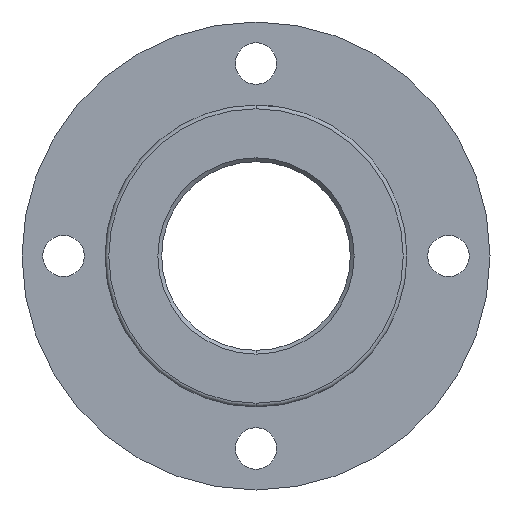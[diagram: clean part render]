
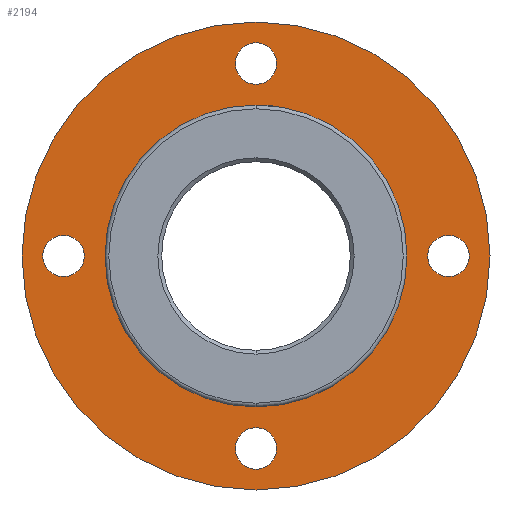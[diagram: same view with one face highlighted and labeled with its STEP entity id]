
A CAD part, front view. The second image highlights one B-rep face of the part: STEP entity #2194.
In plain terms, the highlighted planar face has unit normal (0, -1, 0).
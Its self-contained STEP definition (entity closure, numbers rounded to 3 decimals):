
#85 = EDGE_LOOP ( 'NONE', ( #1535, #3305 ) ) ;
#149 = DIRECTION ( 'NONE',  ( 0., 1., 0. ) ) ;
#234 = CIRCLE ( 'NONE', #4729, 2.75 ) ;
#236 = VERTEX_POINT ( 'NONE', #7078 ) ;
#238 = CARTESIAN_POINT ( 'NONE',  ( 0., 0., 0. ) ) ;
#406 = CIRCLE ( 'NONE', #1423, 2.75 ) ;
#569 = EDGE_CURVE ( 'NONE', #3657, #1686, #3409, .T. ) ;
#861 = VERTEX_POINT ( 'NONE', #3501 ) ;
#949 = AXIS2_PLACEMENT_3D ( 'NONE', #5055, #2884, #2248 ) ;
#965 = DIRECTION ( 'NONE',  ( 0., 1., 0. ) ) ;
#985 = ORIENTED_EDGE ( 'NONE', *, *, #4779, .T. ) ;
#1423 = AXIS2_PLACEMENT_3D ( 'NONE', #6720, #4942, #6667 ) ;
#1467 = FACE_BOUND ( 'NONE', #2115, .T. ) ;
#1476 = DIRECTION ( 'NONE',  ( 0., 1., 0. ) ) ;
#1492 = CARTESIAN_POINT ( 'NONE',  ( 25.5, 0., 0. ) ) ;
#1535 = ORIENTED_EDGE ( 'NONE', *, *, #7044, .T. ) ;
#1628 = AXIS2_PLACEMENT_3D ( 'NONE', #238, #1927, #3280 ) ;
#1639 = EDGE_CURVE ( 'NONE', #4273, #3506, #4020, .T. ) ;
#1686 = VERTEX_POINT ( 'NONE', #6641 ) ;
#1927 = DIRECTION ( 'NONE',  ( 0., 1., 0. ) ) ;
#1998 = DIRECTION ( 'NONE',  ( 0., 1., 0. ) ) ;
#2015 = CIRCLE ( 'NONE', #3914, 2.75 ) ;
#2023 = DIRECTION ( 'NONE',  ( 0., 1., 0. ) ) ;
#2041 = EDGE_CURVE ( 'NONE', #1686, #3657, #7013, .T. ) ;
#2052 = CARTESIAN_POINT ( 'NONE',  ( 0., 0., -28.25 ) ) ;
#2115 = EDGE_LOOP ( 'NONE', ( #3963, #4427 ) ) ;
#2122 = CARTESIAN_POINT ( 'NONE',  ( 0., 0., -25.5 ) ) ;
#2168 = CARTESIAN_POINT ( 'NONE',  ( -25.5, 0., -2.75 ) ) ;
#2194 = ADVANCED_FACE ( 'NONE', ( #5173, #4188, #4800, #1467, #5781, #6037 ), #3743, .F. ) ;
#2248 = DIRECTION ( 'NONE',  ( 0., 0., 1. ) ) ;
#2254 = CIRCLE ( 'NONE', #3573, 31. ) ;
#2264 = DIRECTION ( 'NONE',  ( 0., 0., 1. ) ) ;
#2343 = AXIS2_PLACEMENT_3D ( 'NONE', #6485, #1476, #4908 ) ;
#2438 = VERTEX_POINT ( 'NONE', #6660 ) ;
#2519 = EDGE_CURVE ( 'NONE', #3506, #4273, #234, .T. ) ;
#2540 = ORIENTED_EDGE ( 'NONE', *, *, #569, .T. ) ;
#2553 = CARTESIAN_POINT ( 'NONE',  ( 0., 0., 22.75 ) ) ;
#2583 = DIRECTION ( 'NONE',  ( 0., 0., 1. ) ) ;
#2643 = EDGE_CURVE ( 'NONE', #861, #6419, #6829, .T. ) ;
#2678 = DIRECTION ( 'NONE',  ( 0., 0., 1. ) ) ;
#2715 = EDGE_CURVE ( 'NONE', #2940, #7114, #2958, .T. ) ;
#2789 = CIRCLE ( 'NONE', #2919, 2.75 ) ;
#2884 = DIRECTION ( 'NONE',  ( 0., 1., 0. ) ) ;
#2919 = AXIS2_PLACEMENT_3D ( 'NONE', #6183, #7284, #2264 ) ;
#2940 = VERTEX_POINT ( 'NONE', #5760 ) ;
#2958 = CIRCLE ( 'NONE', #2985, 31. ) ;
#2985 = AXIS2_PLACEMENT_3D ( 'NONE', #3732, #1998, #5955 ) ;
#3027 = ORIENTED_EDGE ( 'NONE', *, *, #2715, .F. ) ;
#3065 = CARTESIAN_POINT ( 'NONE',  ( 0., 0., -31. ) ) ;
#3158 = DIRECTION ( 'NONE',  ( 0., 0., 1. ) ) ;
#3164 = DIRECTION ( 'NONE',  ( 0., 0., 1. ) ) ;
#3235 = VERTEX_POINT ( 'NONE', #2168 ) ;
#3274 = EDGE_CURVE ( 'NONE', #5257, #2438, #406, .T. ) ;
#3280 = DIRECTION ( 'NONE',  ( 0., 0., 1. ) ) ;
#3305 = ORIENTED_EDGE ( 'NONE', *, *, #2643, .T. ) ;
#3409 = CIRCLE ( 'NONE', #2343, 20. ) ;
#3478 = DIRECTION ( 'NONE',  ( 0., 1., 0. ) ) ;
#3480 = ORIENTED_EDGE ( 'NONE', *, *, #2041, .T. ) ;
#3501 = CARTESIAN_POINT ( 'NONE',  ( 25.5, 0., -2.75 ) ) ;
#3506 = VERTEX_POINT ( 'NONE', #6436 ) ;
#3573 = AXIS2_PLACEMENT_3D ( 'NONE', #6019, #6557, #3164 ) ;
#3657 = VERTEX_POINT ( 'NONE', #4985 ) ;
#3714 = ORIENTED_EDGE ( 'NONE', *, *, #3985, .T. ) ;
#3732 = CARTESIAN_POINT ( 'NONE',  ( 0., 0., 0. ) ) ;
#3743 = PLANE ( 'NONE',  #6992 ) ;
#3766 = CIRCLE ( 'NONE', #6887, 2.75 ) ;
#3896 = EDGE_CURVE ( 'NONE', #7114, #2940, #2254, .T. ) ;
#3914 = AXIS2_PLACEMENT_3D ( 'NONE', #6339, #3478, #6379 ) ;
#3963 = ORIENTED_EDGE ( 'NONE', *, *, #6106, .T. ) ;
#3985 = EDGE_CURVE ( 'NONE', #236, #3235, #2789, .T. ) ;
#4020 = CIRCLE ( 'NONE', #5387, 2.75 ) ;
#4110 = AXIS2_PLACEMENT_3D ( 'NONE', #1492, #2023, #2583 ) ;
#4143 = CARTESIAN_POINT ( 'NONE',  ( 0., 0., -25.5 ) ) ;
#4188 = FACE_BOUND ( 'NONE', #7252, .T. ) ;
#4191 = ORIENTED_EDGE ( 'NONE', *, *, #3896, .F. ) ;
#4273 = VERTEX_POINT ( 'NONE', #2052 ) ;
#4427 = ORIENTED_EDGE ( 'NONE', *, *, #3274, .T. ) ;
#4458 = CIRCLE ( 'NONE', #949, 2.75 ) ;
#4593 = ORIENTED_EDGE ( 'NONE', *, *, #2519, .T. ) ;
#4647 = DIRECTION ( 'NONE',  ( 0., 0., 1. ) ) ;
#4729 = AXIS2_PLACEMENT_3D ( 'NONE', #4143, #6921, #5322 ) ;
#4779 = EDGE_CURVE ( 'NONE', #3235, #236, #4458, .T. ) ;
#4800 = FACE_BOUND ( 'NONE', #85, .T. ) ;
#4908 = DIRECTION ( 'NONE',  ( 0., 0., 1. ) ) ;
#4942 = DIRECTION ( 'NONE',  ( 0., 1., 0. ) ) ;
#4985 = CARTESIAN_POINT ( 'NONE',  ( 0., 0., 20. ) ) ;
#5031 = DIRECTION ( 'NONE',  ( 0., 1., 0. ) ) ;
#5055 = CARTESIAN_POINT ( 'NONE',  ( -25.5, 0., 0. ) ) ;
#5173 = FACE_BOUND ( 'NONE', #6690, .T. ) ;
#5242 = CARTESIAN_POINT ( 'NONE',  ( 25.5, 0., 0. ) ) ;
#5257 = VERTEX_POINT ( 'NONE', #2553 ) ;
#5322 = DIRECTION ( 'NONE',  ( 0., 0., 1. ) ) ;
#5387 = AXIS2_PLACEMENT_3D ( 'NONE', #2122, #5031, #2678 ) ;
#5519 = CARTESIAN_POINT ( 'NONE',  ( 25.5, 0., 2.75 ) ) ;
#5630 = ORIENTED_EDGE ( 'NONE', *, *, #1639, .T. ) ;
#5760 = CARTESIAN_POINT ( 'NONE',  ( 0., 0., 31. ) ) ;
#5781 = FACE_BOUND ( 'NONE', #6053, .T. ) ;
#5955 = DIRECTION ( 'NONE',  ( 0., 0., 1. ) ) ;
#5988 = CARTESIAN_POINT ( 'NONE',  ( 0., 0., 0. ) ) ;
#6019 = CARTESIAN_POINT ( 'NONE',  ( 0., 0., 0. ) ) ;
#6032 = EDGE_LOOP ( 'NONE', ( #4191, #3027 ) ) ;
#6037 = FACE_OUTER_BOUND ( 'NONE', #6032, .T. ) ;
#6053 = EDGE_LOOP ( 'NONE', ( #3714, #985 ) ) ;
#6106 = EDGE_CURVE ( 'NONE', #2438, #5257, #2015, .T. ) ;
#6183 = CARTESIAN_POINT ( 'NONE',  ( -25.5, 0., 0. ) ) ;
#6339 = CARTESIAN_POINT ( 'NONE',  ( 0., 0., 25.5 ) ) ;
#6379 = DIRECTION ( 'NONE',  ( 0., 0., 1. ) ) ;
#6419 = VERTEX_POINT ( 'NONE', #5519 ) ;
#6436 = CARTESIAN_POINT ( 'NONE',  ( 0., 0., -22.75 ) ) ;
#6485 = CARTESIAN_POINT ( 'NONE',  ( 0., 0., 0. ) ) ;
#6557 = DIRECTION ( 'NONE',  ( 0., 1., 0. ) ) ;
#6641 = CARTESIAN_POINT ( 'NONE',  ( 0., 0., -20. ) ) ;
#6660 = CARTESIAN_POINT ( 'NONE',  ( 0., 0., 28.25 ) ) ;
#6667 = DIRECTION ( 'NONE',  ( 0., 0., 1. ) ) ;
#6690 = EDGE_LOOP ( 'NONE', ( #2540, #3480 ) ) ;
#6720 = CARTESIAN_POINT ( 'NONE',  ( 0., 0., 25.5 ) ) ;
#6829 = CIRCLE ( 'NONE', #4110, 2.75 ) ;
#6887 = AXIS2_PLACEMENT_3D ( 'NONE', #5242, #149, #4647 ) ;
#6921 = DIRECTION ( 'NONE',  ( 0., 1., 0. ) ) ;
#6992 = AXIS2_PLACEMENT_3D ( 'NONE', #5988, #965, #3158 ) ;
#7013 = CIRCLE ( 'NONE', #1628, 20. ) ;
#7044 = EDGE_CURVE ( 'NONE', #6419, #861, #3766, .T. ) ;
#7078 = CARTESIAN_POINT ( 'NONE',  ( -25.5, 0., 2.75 ) ) ;
#7114 = VERTEX_POINT ( 'NONE', #3065 ) ;
#7252 = EDGE_LOOP ( 'NONE', ( #4593, #5630 ) ) ;
#7284 = DIRECTION ( 'NONE',  ( 0., 1., 0. ) ) ;
